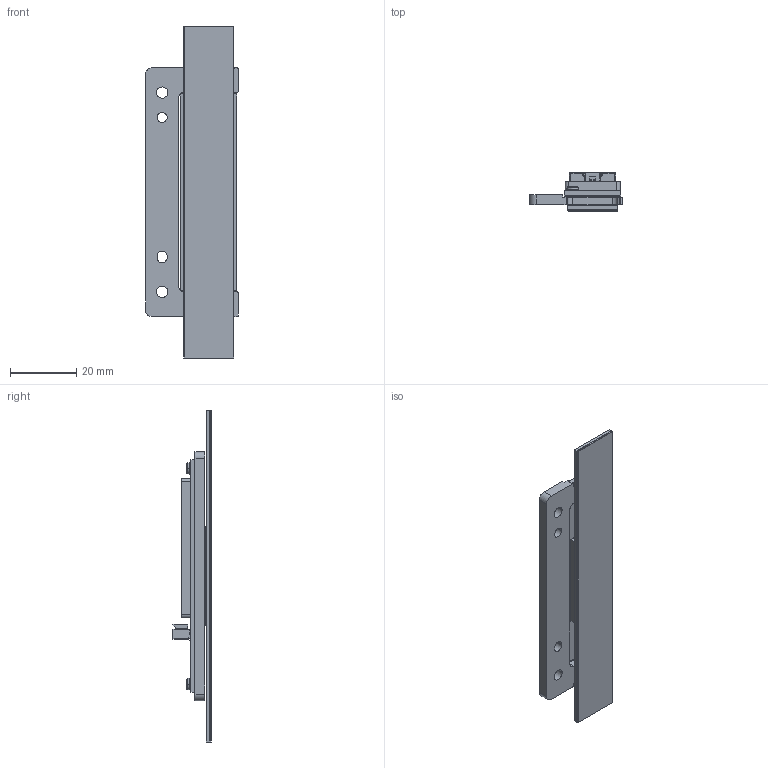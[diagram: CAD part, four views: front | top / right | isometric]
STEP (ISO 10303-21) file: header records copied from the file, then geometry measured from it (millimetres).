
FILE_DESCRIPTION (( 'STEP AP203' ), '1' );
FILE_NAME ('Plošèica+trak.STEP', '2025-07-14T07:58:54', ( '' ), ( '' ), 'SwSTEP 2.0', 'SolidWorks 2024', '' );
FILE_SCHEMA (( 'CONFIG_CONTROL_DESIGN' ));
Products named in the file (1): Ploščica+trak
Bounding box: 28 x 11.47 x 100 mm (x, y, z)
Surface area: 11754.2 mm2 (no closed solid volume)
Topology: 0 solids, 90 shells, 2126 faces, 5519 edges, 3627 vertices
Faces by surface type: plane 1727, bspline 189, cylinder 152, torus 42, cone 12, sphere 4
Entity records: 73864 total; most frequent: CARTESIAN_POINT 23692, ORIENTED_EDGE 10892, DIRECTION 9003, EDGE_CURVE 5514, VECTOR 4289, LINE 4289, VERTEX_POINT 3627, AXIS2_PLACEMENT_3D 2357
